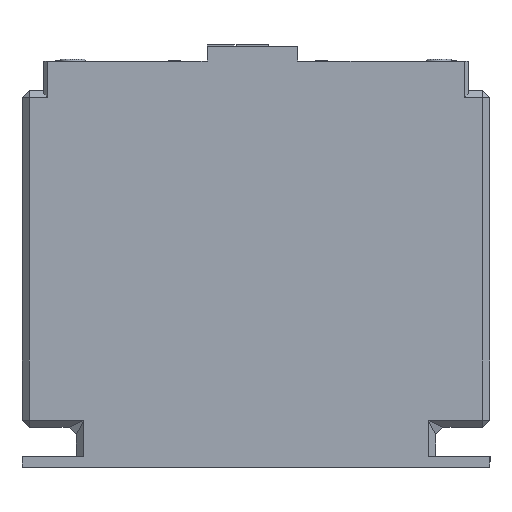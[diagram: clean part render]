
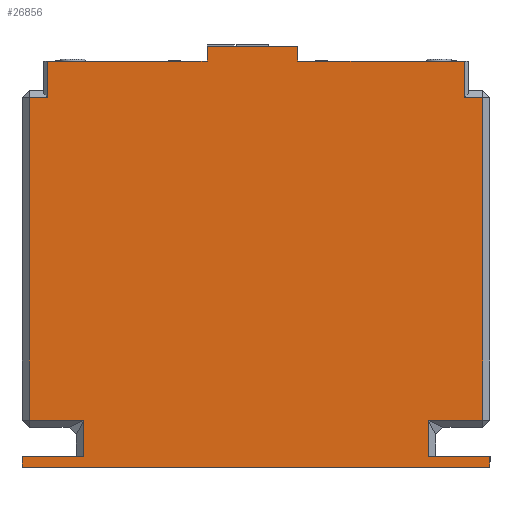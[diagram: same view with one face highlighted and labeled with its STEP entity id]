
A CAD part, left-side view. The second image highlights one B-rep face of the part: STEP entity #26856.
In plain terms, the highlighted planar face has unit normal (-1, 0, 0).
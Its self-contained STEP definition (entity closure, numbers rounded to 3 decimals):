
#648=LINE('',#34630,#3353);
#819=LINE('',#35457,#3524);
#2610=LINE('',#45987,#5315);
#2622=LINE('',#46011,#5327);
#2623=LINE('',#46014,#5328);
#2624=LINE('',#46016,#5329);
#2625=LINE('',#46017,#5330);
#2626=LINE('',#46019,#5331);
#2627=LINE('',#46021,#5332);
#2628=LINE('',#46023,#5333);
#2629=LINE('',#46025,#5334);
#2630=LINE('',#46027,#5335);
#2631=LINE('',#46029,#5336);
#2632=LINE('',#46031,#5337);
#2633=LINE('',#46033,#5338);
#2634=LINE('',#46035,#5339);
#2635=LINE('',#46037,#5340);
#2636=LINE('',#46039,#5341);
#2637=LINE('',#46041,#5342);
#2638=LINE('',#46042,#5343);
#3353=VECTOR('',#29004,10.);
#3524=VECTOR('',#29263,10.);
#5315=VECTOR('',#32306,10.);
#5327=VECTOR('',#32326,10.);
#5328=VECTOR('',#32329,10.);
#5329=VECTOR('',#32330,10.);
#5330=VECTOR('',#32331,10.);
#5331=VECTOR('',#32332,10.);
#5332=VECTOR('',#32333,10.);
#5333=VECTOR('',#32334,10.);
#5334=VECTOR('',#32335,10.);
#5335=VECTOR('',#32336,10.);
#5336=VECTOR('',#32337,10.);
#5337=VECTOR('',#32338,10.);
#5338=VECTOR('',#32339,10.);
#5339=VECTOR('',#32340,10.);
#5340=VECTOR('',#32341,10.);
#5341=VECTOR('',#32342,10.);
#5342=VECTOR('',#32343,10.);
#5343=VECTOR('',#32344,10.);
#6638=PLANE('',#28087);
#9048=FACE_OUTER_BOUND('',#10600,.T.);
#10600=EDGE_LOOP('',(#23432,#23433,#23434,#23435,#23436,#23437,#23438,#23439,
#23440,#23441,#23442,#23443,#23444,#23445,#23446,#23447,#23448,#23449,#23450,
#23451));
#11551=VERTEX_POINT('',#34627);
#11552=VERTEX_POINT('',#34629);
#11819=VERTEX_POINT('',#35454);
#11820=VERTEX_POINT('',#35456);
#13370=VERTEX_POINT('',#45986);
#13378=VERTEX_POINT('',#46009);
#13379=VERTEX_POINT('',#46013);
#13380=VERTEX_POINT('',#46015);
#13381=VERTEX_POINT('',#46018);
#13382=VERTEX_POINT('',#46020);
#13383=VERTEX_POINT('',#46022);
#13384=VERTEX_POINT('',#46024);
#13385=VERTEX_POINT('',#46026);
#13386=VERTEX_POINT('',#46028);
#13387=VERTEX_POINT('',#46030);
#13388=VERTEX_POINT('',#46032);
#13389=VERTEX_POINT('',#46034);
#13390=VERTEX_POINT('',#46036);
#13391=VERTEX_POINT('',#46038);
#13392=VERTEX_POINT('',#46040);
#14175=EDGE_CURVE('',#11552,#11551,#648,.T.);
#14463=EDGE_CURVE('',#11820,#11819,#819,.T.);
#16904=EDGE_CURVE('',#11552,#13370,#2610,.T.);
#16916=EDGE_CURVE('',#13378,#11819,#2622,.T.);
#16917=EDGE_CURVE('',#13379,#11551,#2623,.T.);
#16918=EDGE_CURVE('',#13380,#13379,#2624,.T.);
#16919=EDGE_CURVE('',#13380,#11820,#2625,.T.);
#16920=EDGE_CURVE('',#13381,#13378,#2626,.T.);
#16921=EDGE_CURVE('',#13382,#13381,#2627,.T.);
#16922=EDGE_CURVE('',#13383,#13382,#2628,.T.);
#16923=EDGE_CURVE('',#13384,#13383,#2629,.T.);
#16924=EDGE_CURVE('',#13384,#13385,#2630,.T.);
#16925=EDGE_CURVE('',#13386,#13385,#2631,.T.);
#16926=EDGE_CURVE('',#13386,#13387,#2632,.T.);
#16927=EDGE_CURVE('',#13387,#13388,#2633,.T.);
#16928=EDGE_CURVE('',#13388,#13389,#2634,.T.);
#16929=EDGE_CURVE('',#13390,#13389,#2635,.T.);
#16930=EDGE_CURVE('',#13391,#13390,#2636,.T.);
#16931=EDGE_CURVE('',#13392,#13391,#2637,.T.);
#16932=EDGE_CURVE('',#13370,#13392,#2638,.T.);
#23432=ORIENTED_EDGE('',*,*,#16904,.F.);
#23433=ORIENTED_EDGE('',*,*,#14175,.T.);
#23434=ORIENTED_EDGE('',*,*,#16917,.F.);
#23435=ORIENTED_EDGE('',*,*,#16918,.F.);
#23436=ORIENTED_EDGE('',*,*,#16919,.T.);
#23437=ORIENTED_EDGE('',*,*,#14463,.T.);
#23438=ORIENTED_EDGE('',*,*,#16916,.F.);
#23439=ORIENTED_EDGE('',*,*,#16920,.F.);
#23440=ORIENTED_EDGE('',*,*,#16921,.F.);
#23441=ORIENTED_EDGE('',*,*,#16922,.F.);
#23442=ORIENTED_EDGE('',*,*,#16923,.F.);
#23443=ORIENTED_EDGE('',*,*,#16924,.T.);
#23444=ORIENTED_EDGE('',*,*,#16925,.F.);
#23445=ORIENTED_EDGE('',*,*,#16926,.T.);
#23446=ORIENTED_EDGE('',*,*,#16927,.T.);
#23447=ORIENTED_EDGE('',*,*,#16928,.T.);
#23448=ORIENTED_EDGE('',*,*,#16929,.F.);
#23449=ORIENTED_EDGE('',*,*,#16930,.F.);
#23450=ORIENTED_EDGE('',*,*,#16931,.F.);
#23451=ORIENTED_EDGE('',*,*,#16932,.F.);
#26856=ADVANCED_FACE('',(#9048),#6638,.T.);
#28087=AXIS2_PLACEMENT_3D('',#46012,#32327,#32328);
#29004=DIRECTION('',(0.,1.,0.));
#29263=DIRECTION('',(0.,1.,0.));
#32306=DIRECTION('',(0.,0.,-1.));
#32326=DIRECTION('',(0.,0.,1.));
#32327=DIRECTION('center_axis',(-1.,0.,0.));
#32328=DIRECTION('ref_axis',(0.,-1.,0.));
#32329=DIRECTION('',(0.,0.,-1.));
#32330=DIRECTION('',(0.,-1.,0.));
#32331=DIRECTION('',(0.,0.,-1.));
#32332=DIRECTION('',(0.,-1.,0.));
#32333=DIRECTION('',(0.,0.,1.));
#32334=DIRECTION('',(0.,1.,0.));
#32335=DIRECTION('',(0.,0.,1.));
#32336=DIRECTION('',(0.,1.,0.));
#32337=DIRECTION('',(0.,0.,1.));
#32338=DIRECTION('',(0.,-1.,0.));
#32339=DIRECTION('',(0.,0.,1.));
#32340=DIRECTION('',(0.,1.,0.));
#32341=DIRECTION('',(0.,0.,-1.));
#32342=DIRECTION('',(0.,1.,0.));
#32343=DIRECTION('',(0.,0.,-1.));
#32344=DIRECTION('',(0.,-1.,0.));
#34627=CARTESIAN_POINT('',(0.,53.,112.));
#34629=CARTESIAN_POINT('',(0.,7.,112.));
#34630=CARTESIAN_POINT('',(0.,96.75,112.));
#35454=CARTESIAN_POINT('',(0.,122.,112.));
#35456=CARTESIAN_POINT('',(0.,78.,112.));
#35457=CARTESIAN_POINT('',(0.,96.75,112.));
#45986=CARTESIAN_POINT('',(0.,7.,102.));
#45987=CARTESIAN_POINT('',(0.,7.,58.));
#46009=CARTESIAN_POINT('',(0.,122.,102.));
#46011=CARTESIAN_POINT('',(0.,122.,58.));
#46012=CARTESIAN_POINT('Origin',(0.,129.,0.));
#46013=CARTESIAN_POINT('',(0.,53.,116.));
#46014=CARTESIAN_POINT('',(0.,53.,116.));
#46015=CARTESIAN_POINT('',(0.,78.,116.));
#46016=CARTESIAN_POINT('',(0.,78.,116.));
#46017=CARTESIAN_POINT('',(0.,78.,116.));
#46018=CARTESIAN_POINT('',(0.,127.,102.));
#46019=CARTESIAN_POINT('',(0.,127.304,102.));
#46020=CARTESIAN_POINT('',(0.,127.,13.));
#46021=CARTESIAN_POINT('',(0.,127.,0.));
#46022=CARTESIAN_POINT('',(0.,112.,13.));
#46023=CARTESIAN_POINT('',(0.,129.,13.));
#46024=CARTESIAN_POINT('',(0.,112.,3.));
#46025=CARTESIAN_POINT('',(0.,112.,3.5));
#46026=CARTESIAN_POINT('',(0.,129.,3.));
#46027=CARTESIAN_POINT('',(0.,129.,3.));
#46028=CARTESIAN_POINT('',(0.,129.,0.));
#46029=CARTESIAN_POINT('',(0.,129.,0.));
#46030=CARTESIAN_POINT('',(0.,0.,0.));
#46031=CARTESIAN_POINT('',(0.,129.,0.));
#46032=CARTESIAN_POINT('',(0.,0.,3.));
#46033=CARTESIAN_POINT('',(0.,0.,0.));
#46034=CARTESIAN_POINT('',(0.,17.,3.));
#46035=CARTESIAN_POINT('',(0.,64.5,3.));
#46036=CARTESIAN_POINT('',(0.,17.,13.));
#46037=CARTESIAN_POINT('',(0.,17.,3.5));
#46038=CARTESIAN_POINT('',(0.,2.,13.));
#46039=CARTESIAN_POINT('',(0.,64.5,13.));
#46040=CARTESIAN_POINT('',(0.,2.,102.));
#46041=CARTESIAN_POINT('',(0.,2.,0.));
#46042=CARTESIAN_POINT('',(0.,66.196,102.));
